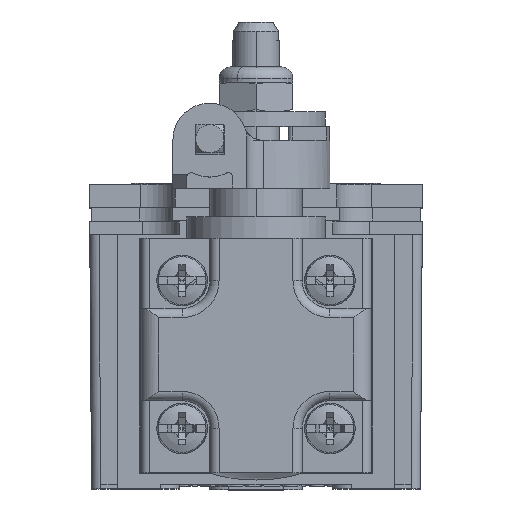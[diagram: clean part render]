
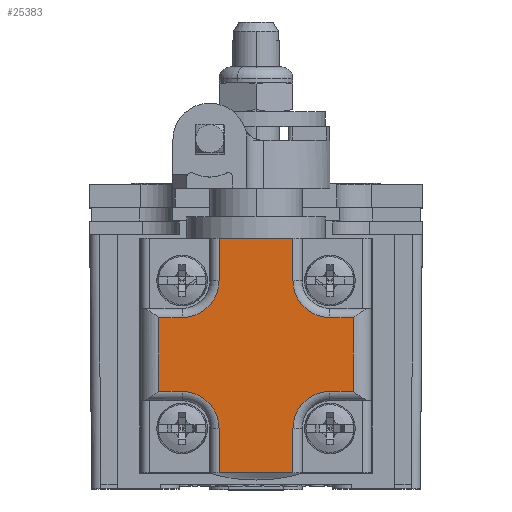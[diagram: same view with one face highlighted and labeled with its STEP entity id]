
A CAD part, top view. The second image highlights one B-rep face of the part: STEP entity #25383.
In plain terms, the highlighted planar face has unit normal (0, 0, 1).
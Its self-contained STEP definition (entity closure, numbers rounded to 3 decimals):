
#23888=DIRECTION('',(1.,0.,0.));
#23889=VECTOR('',#23888,8.);
#23890=CARTESIAN_POINT('',(-4.,1.7,22.));
#23891=LINE('',#23890,#23889);
#23951=DIRECTION('',(0.,-1.,0.));
#23952=VECTOR('',#23951,4.8);
#23953=CARTESIAN_POINT('',(-4.,6.5,22.));
#23954=LINE('',#23953,#23952);
#24151=DIRECTION('',(1.,0.,0.));
#24152=VECTOR('',#24151,8.);
#24153=CARTESIAN_POINT('',(-4.,27.1,22.));
#24154=LINE('',#24153,#24152);
#24234=DIRECTION('',(0.,-1.,0.));
#24235=VECTOR('',#24234,4.6);
#24236=CARTESIAN_POINT('',(-4.,27.1,22.));
#24237=LINE('',#24236,#24235);
#24264=CARTESIAN_POINT('',(-8.,6.5,22.));
#24265=DIRECTION('',(0.,0.,-1.));
#24266=DIRECTION('',(0.,1.,0.));
#24267=AXIS2_PLACEMENT_3D('',#24264,#24265,#24266);
#24280=DIRECTION('',(1.,0.,0.));
#24281=VECTOR('',#24280,2.509);
#24282=CARTESIAN_POINT('',(-10.509,10.5,22.));
#24283=LINE('',#24282,#24281);
#24344=DIRECTION('',(0.,-1.,0.));
#24345=VECTOR('',#24344,8.);
#24346=CARTESIAN_POINT('',(-10.509,18.5,22.));
#24347=LINE('',#24346,#24345);
#24418=DIRECTION('',(-1.,0.,0.));
#24419=VECTOR('',#24418,2.509);
#24420=CARTESIAN_POINT('',(-8.,18.5,22.));
#24421=LINE('',#24420,#24419);
#24442=CARTESIAN_POINT('',(-8.,22.5,22.));
#24443=DIRECTION('',(0.,0.,-1.));
#24444=DIRECTION('',(1.,0.,0.));
#24445=AXIS2_PLACEMENT_3D('',#24442,#24443,#24444);
#24473=DIRECTION('',(0.,1.,0.));
#24474=VECTOR('',#24473,4.6);
#24475=CARTESIAN_POINT('',(4.,22.5,22.));
#24476=LINE('',#24475,#24474);
#24667=DIRECTION('',(1.,0.,0.));
#24668=VECTOR('',#24667,2.509);
#24669=CARTESIAN_POINT('',(8.,10.5,22.));
#24670=LINE('',#24669,#24668);
#24699=CARTESIAN_POINT('',(8.,6.5,22.));
#24700=DIRECTION('',(0.,0.,-1.));
#24701=DIRECTION('',(-1.,0.,0.));
#24702=AXIS2_PLACEMENT_3D('',#24699,#24700,#24701);
#24715=DIRECTION('',(0.,1.,0.));
#24716=VECTOR('',#24715,4.8);
#24717=CARTESIAN_POINT('',(4.,1.7,22.));
#24718=LINE('',#24717,#24716);
#24759=DIRECTION('',(0.,1.,0.));
#24760=VECTOR('',#24759,8.);
#24761=CARTESIAN_POINT('',(10.509,10.5,22.));
#24762=LINE('',#24761,#24760);
#24766=DIRECTION('',(-1.,0.,0.));
#24767=VECTOR('',#24766,2.509);
#24768=CARTESIAN_POINT('',(10.509,18.5,22.));
#24769=LINE('',#24768,#24767);
#24809=CARTESIAN_POINT('',(8.,22.5,22.));
#24810=DIRECTION('',(0.,0.,-1.));
#24811=DIRECTION('',(0.,-1.,0.));
#24812=AXIS2_PLACEMENT_3D('',#24809,#24810,#24811);
#24952=CARTESIAN_POINT('',(-4.,6.5,22.));
#24953=CARTESIAN_POINT('',(-4.,1.7,22.));
#24954=VERTEX_POINT('',#24952);
#24955=VERTEX_POINT('',#24953);
#24958=CARTESIAN_POINT('',(-8.001,10.5,22.));
#24959=VERTEX_POINT('',#24958);
#24960=CARTESIAN_POINT('',(-10.509,10.5,22.));
#24961=VERTEX_POINT('',#24960);
#24972=CARTESIAN_POINT('',(-4.,27.1,22.));
#24973=CARTESIAN_POINT('',(-4.,22.5,22.));
#24974=VERTEX_POINT('',#24972);
#24975=VERTEX_POINT('',#24973);
#24980=CARTESIAN_POINT('',(-8.001,18.5,22.));
#24981=VERTEX_POINT('',#24980);
#24986=CARTESIAN_POINT('',(-10.509,18.5,22.));
#24987=VERTEX_POINT('',#24986);
#25008=CARTESIAN_POINT('',(4.,22.5,22.));
#25009=CARTESIAN_POINT('',(4.,27.1,22.));
#25010=VERTEX_POINT('',#25008);
#25011=VERTEX_POINT('',#25009);
#25014=CARTESIAN_POINT('',(8.001,18.5,22.));
#25015=VERTEX_POINT('',#25014);
#25016=CARTESIAN_POINT('',(10.509,18.5,22.));
#25017=VERTEX_POINT('',#25016);
#25032=CARTESIAN_POINT('',(8.,10.5,22.));
#25033=CARTESIAN_POINT('',(10.509,10.5,22.));
#25034=VERTEX_POINT('',#25032);
#25035=VERTEX_POINT('',#25033);
#25038=CARTESIAN_POINT('',(4.,6.5,22.));
#25039=VERTEX_POINT('',#25038);
#25040=CARTESIAN_POINT('',(4.,1.7,22.));
#25041=VERTEX_POINT('',#25040);
#25348=CARTESIAN_POINT('',(-12.5,1.7,22.));
#25349=DIRECTION('',(0.,0.,1.));
#25350=DIRECTION('',(1.,0.,0.));
#25351=AXIS2_PLACEMENT_3D('',#25348,#25349,#25350);
#25352=PLANE('',#25351);
#25353=ORIENTED_EDGE('',*,*,#25123,.F.);
#25355=ORIENTED_EDGE('',*,*,#25354,.F.);
#25357=ORIENTED_EDGE('',*,*,#25356,.F.);
#25359=ORIENTED_EDGE('',*,*,#25358,.F.);
#25361=ORIENTED_EDGE('',*,*,#25360,.F.);
#25363=ORIENTED_EDGE('',*,*,#25362,.F.);
#25364=ORIENTED_EDGE('',*,*,#25338,.F.);
#25365=ORIENTED_EDGE('',*,*,#25250,.T.);
#25367=ORIENTED_EDGE('',*,*,#25366,.F.);
#25369=ORIENTED_EDGE('',*,*,#25368,.F.);
#25371=ORIENTED_EDGE('',*,*,#25370,.F.);
#25373=ORIENTED_EDGE('',*,*,#25372,.F.);
#25375=ORIENTED_EDGE('',*,*,#25374,.F.);
#25377=ORIENTED_EDGE('',*,*,#25376,.F.);
#25379=ORIENTED_EDGE('',*,*,#25378,.F.);
#25380=ORIENTED_EDGE('',*,*,#25083,.F.);
#25381=EDGE_LOOP('',(#25353,#25355,#25357,#25359,#25361,#25363,#25364,#25365,
#25367,#25369,#25371,#25373,#25375,#25377,#25379,#25380));
#25382=FACE_OUTER_BOUND('',#25381,.F.);
#25383=ADVANCED_FACE('',(#25382),#25352,.T.);
#24268=CIRCLE('',#24267,4.);
#24446=CIRCLE('',#24445,4.);
#24703=CIRCLE('',#24702,4.);
#24813=CIRCLE('',#24812,4.);
#25083=EDGE_CURVE('',#24955,#25041,#23891,.T.);
#25123=EDGE_CURVE('',#24954,#24955,#23954,.T.);
#25250=EDGE_CURVE('',#24974,#25011,#24154,.T.);
#25338=EDGE_CURVE('',#24974,#24975,#24237,.T.);
#25354=EDGE_CURVE('',#24959,#24954,#24268,.T.);
#25356=EDGE_CURVE('',#24961,#24959,#24283,.T.);
#25358=EDGE_CURVE('',#24987,#24961,#24347,.T.);
#25360=EDGE_CURVE('',#24981,#24987,#24421,.T.);
#25362=EDGE_CURVE('',#24975,#24981,#24446,.T.);
#25366=EDGE_CURVE('',#25010,#25011,#24476,.T.);
#25368=EDGE_CURVE('',#25015,#25010,#24813,.T.);
#25370=EDGE_CURVE('',#25017,#25015,#24769,.T.);
#25372=EDGE_CURVE('',#25035,#25017,#24762,.T.);
#25374=EDGE_CURVE('',#25034,#25035,#24670,.T.);
#25376=EDGE_CURVE('',#25039,#25034,#24703,.T.);
#25378=EDGE_CURVE('',#25041,#25039,#24718,.T.);
